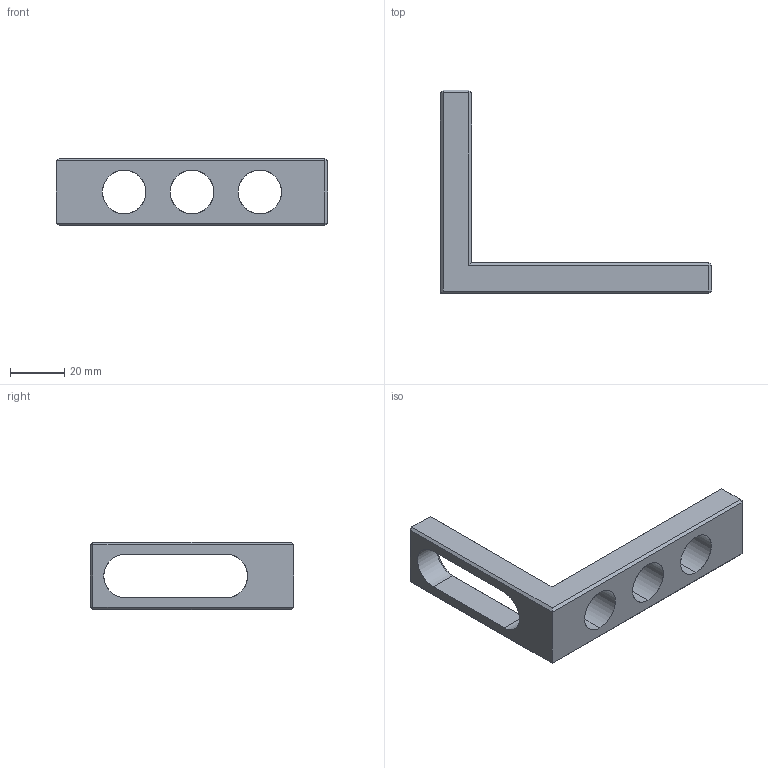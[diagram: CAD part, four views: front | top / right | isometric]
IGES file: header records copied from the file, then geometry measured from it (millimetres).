
Start section: SolidWorks IGES file using analytic representation for surfaces
Global section: file name: 5HC:\Users\Yang Lang\Desktop\CAD\IGS\T60305.IGS; native system: SolidWorks 2014; preprocessor: SolidWorks 2014; author: Yang Lang; date: 180711.113803; units: millimetre
Bounding box: 100 x 75 x 25 mm (x, y, z)
Surface area: 12303.3 mm2 (no closed solid volume)
Topology: 0 solids, 0 shells, 46 faces, 440 edges, 440 vertices
Faces by surface type: bspline 36, revolution 10
